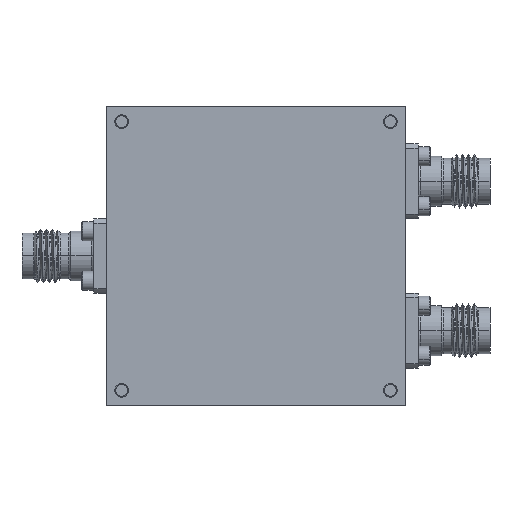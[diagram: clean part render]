
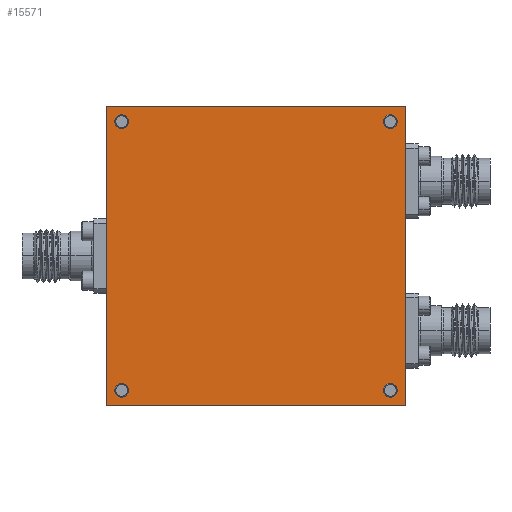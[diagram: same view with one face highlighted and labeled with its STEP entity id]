
A CAD part, front view. The second image highlights one B-rep face of the part: STEP entity #15571.
In plain terms, the highlighted planar face has unit normal (0, -1, 0).
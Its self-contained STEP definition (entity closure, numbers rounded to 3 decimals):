
#79 = EDGE_CURVE ( 'NONE', #7334, #12199, #13654, .T. ) ;
#210 = DIRECTION ( 'NONE',  ( 0., 0., 1. ) ) ;
#556 = ORIENTED_EDGE ( 'NONE', *, *, #16742, .T. ) ;
#653 = AXIS2_PLACEMENT_3D ( 'NONE', #17389, #17871, #15216 ) ;
#761 = CARTESIAN_POINT ( 'NONE',  ( 17.145, 0., -18.034 ) ) ;
#955 = DIRECTION ( 'NONE',  ( 0., 0., 1. ) ) ;
#980 = CARTESIAN_POINT ( 'NONE',  ( 19.05, 0., -19.05 ) ) ;
#1089 = DIRECTION ( 'NONE',  ( 0., 1., 0. ) ) ;
#1413 = CARTESIAN_POINT ( 'NONE',  ( -17.145, 0., -16.256 ) ) ;
#1444 = EDGE_CURVE ( 'NONE', #18007, #2345, #14243, .T. ) ;
#1454 = CARTESIAN_POINT ( 'NONE',  ( 17.145, 0., 16.256 ) ) ;
#1477 = CARTESIAN_POINT ( 'NONE',  ( -19.05, 0., -19.05 ) ) ;
#1688 = ORIENTED_EDGE ( 'NONE', *, *, #3674, .T. ) ;
#1752 = DIRECTION ( 'NONE',  ( 0., 0., 1. ) ) ;
#1812 = VERTEX_POINT ( 'NONE', #6658 ) ;
#1845 = CARTESIAN_POINT ( 'NONE',  ( -17.145, 0., -17.145 ) ) ;
#2024 = CIRCLE ( 'NONE', #4679, 0.889 ) ;
#2078 = FACE_BOUND ( 'NONE', #10899, .T. ) ;
#2144 = ORIENTED_EDGE ( 'NONE', *, *, #15647, .F. ) ;
#2345 = VERTEX_POINT ( 'NONE', #1477 ) ;
#2397 = EDGE_CURVE ( 'NONE', #1812, #5241, #2024, .T. ) ;
#2501 = CARTESIAN_POINT ( 'NONE',  ( 17.145, 0., -16.256 ) ) ;
#3299 = CIRCLE ( 'NONE', #14233, 0.889 ) ;
#3488 = CARTESIAN_POINT ( 'NONE',  ( 19.05, 0., 19.05 ) ) ;
#3674 = EDGE_CURVE ( 'NONE', #13800, #5542, #11053, .T. ) ;
#4264 = CARTESIAN_POINT ( 'NONE',  ( 19.05, 0., -19.05 ) ) ;
#4679 = AXIS2_PLACEMENT_3D ( 'NONE', #9354, #18393, #18478 ) ;
#5083 = EDGE_LOOP ( 'NONE', ( #12473, #8417 ) ) ;
#5224 = VERTEX_POINT ( 'NONE', #3488 ) ;
#5241 = VERTEX_POINT ( 'NONE', #8159 ) ;
#5353 = CARTESIAN_POINT ( 'NONE',  ( -17.145, 0., -17.145 ) ) ;
#5363 = EDGE_LOOP ( 'NONE', ( #556, #7794 ) ) ;
#5542 = VERTEX_POINT ( 'NONE', #2501 ) ;
#5571 = FACE_BOUND ( 'NONE', #5083, .T. ) ;
#5690 = AXIS2_PLACEMENT_3D ( 'NONE', #12480, #17504, #955 ) ;
#5933 = CARTESIAN_POINT ( 'NONE',  ( -19.05, 0., 19.05 ) ) ;
#5944 = DIRECTION ( 'NONE',  ( 0., 1., 0. ) ) ;
#6227 = CARTESIAN_POINT ( 'NONE',  ( 17.145, 0., 18.034 ) ) ;
#6658 = CARTESIAN_POINT ( 'NONE',  ( -17.145, 0., 18.034 ) ) ;
#6756 = DIRECTION ( 'NONE',  ( 0., 0., 1. ) ) ;
#6894 = CARTESIAN_POINT ( 'NONE',  ( -19.05, 0., -19.05 ) ) ;
#6898 = CARTESIAN_POINT ( 'NONE',  ( -17.145, 0., -18.034 ) ) ;
#7045 = EDGE_CURVE ( 'NONE', #5241, #1812, #7439, .T. ) ;
#7102 = DIRECTION ( 'NONE',  ( 0., 0., -1. ) ) ;
#7200 = DIRECTION ( 'NONE',  ( 0., 1., 0. ) ) ;
#7334 = VERTEX_POINT ( 'NONE', #6898 ) ;
#7397 = AXIS2_PLACEMENT_3D ( 'NONE', #5353, #13638, #11878 ) ;
#7439 = CIRCLE ( 'NONE', #12440, 0.889 ) ;
#7483 = DIRECTION ( 'NONE',  ( 1., 0., 0. ) ) ;
#7486 = DIRECTION ( 'NONE',  ( 0., 0., 1. ) ) ;
#7581 = CARTESIAN_POINT ( 'NONE',  ( 0., 0., 0. ) ) ;
#7794 = ORIENTED_EDGE ( 'NONE', *, *, #79, .T. ) ;
#7895 = VECTOR ( 'NONE', #15924, 1000. ) ;
#8010 = EDGE_CURVE ( 'NONE', #5224, #18007, #14646, .T. ) ;
#8159 = CARTESIAN_POINT ( 'NONE',  ( -17.145, 0., 16.256 ) ) ;
#8417 = ORIENTED_EDGE ( 'NONE', *, *, #7045, .T. ) ;
#8989 = CARTESIAN_POINT ( 'NONE',  ( 17.145, 0., -17.145 ) ) ;
#9184 = EDGE_LOOP ( 'NONE', ( #10038, #2144, #15592, #15813 ) ) ;
#9354 = CARTESIAN_POINT ( 'NONE',  ( -17.145, 0., 17.145 ) ) ;
#9912 = EDGE_CURVE ( 'NONE', #18545, #16655, #11320, .T. ) ;
#9967 = LINE ( 'NONE', #14287, #12677 ) ;
#10038 = ORIENTED_EDGE ( 'NONE', *, *, #8010, .F. ) ;
#10535 = DIRECTION ( 'NONE',  ( 0., 0., 1. ) ) ;
#10741 = ORIENTED_EDGE ( 'NONE', *, *, #17376, .T. ) ;
#10899 = EDGE_LOOP ( 'NONE', ( #10741, #1688 ) ) ;
#10935 = CIRCLE ( 'NONE', #653, 0.889 ) ;
#11053 = CIRCLE ( 'NONE', #16089, 0.889 ) ;
#11320 = CIRCLE ( 'NONE', #5690, 0.889 ) ;
#11419 = EDGE_CURVE ( 'NONE', #16655, #18545, #10935, .T. ) ;
#11527 = PLANE ( 'NONE',  #17967 ) ;
#11878 = DIRECTION ( 'NONE',  ( 0., 0., 1. ) ) ;
#12199 = VERTEX_POINT ( 'NONE', #1413 ) ;
#12440 = AXIS2_PLACEMENT_3D ( 'NONE', #16245, #5944, #10535 ) ;
#12473 = ORIENTED_EDGE ( 'NONE', *, *, #2397, .T. ) ;
#12480 = CARTESIAN_POINT ( 'NONE',  ( 17.145, 0., 17.145 ) ) ;
#12677 = VECTOR ( 'NONE', #6756, 1000. ) ;
#13258 = CARTESIAN_POINT ( 'NONE',  ( 17.145, 0., -17.145 ) ) ;
#13638 = DIRECTION ( 'NONE',  ( 0., 1., 0. ) ) ;
#13654 = CIRCLE ( 'NONE', #7397, 0.889 ) ;
#13800 = VERTEX_POINT ( 'NONE', #761 ) ;
#14233 = AXIS2_PLACEMENT_3D ( 'NONE', #8989, #14970, #210 ) ;
#14243 = LINE ( 'NONE', #6894, #7895 ) ;
#14287 = CARTESIAN_POINT ( 'NONE',  ( -19.05, 0., -19.05 ) ) ;
#14560 = ORIENTED_EDGE ( 'NONE', *, *, #9912, .T. ) ;
#14646 = LINE ( 'NONE', #4264, #17664 ) ;
#14970 = DIRECTION ( 'NONE',  ( 0., 1., 0. ) ) ;
#15216 = DIRECTION ( 'NONE',  ( 0., 0., 1. ) ) ;
#15262 = EDGE_LOOP ( 'NONE', ( #19178, #14560 ) ) ;
#15480 = FACE_BOUND ( 'NONE', #5363, .T. ) ;
#15571 = ADVANCED_FACE ( 'NONE', ( #15480, #2078, #17897, #5571, #15966 ), #11527, .F. ) ;
#15592 = ORIENTED_EDGE ( 'NONE', *, *, #17156, .F. ) ;
#15647 = EDGE_CURVE ( 'NONE', #19155, #5224, #18983, .T. ) ;
#15813 = ORIENTED_EDGE ( 'NONE', *, *, #1444, .F. ) ;
#15924 = DIRECTION ( 'NONE',  ( -1., 0., 0. ) ) ;
#15966 = FACE_OUTER_BOUND ( 'NONE', #9184, .T. ) ;
#16089 = AXIS2_PLACEMENT_3D ( 'NONE', #13258, #7200, #17714 ) ;
#16245 = CARTESIAN_POINT ( 'NONE',  ( -17.145, 0., 17.145 ) ) ;
#16655 = VERTEX_POINT ( 'NONE', #6227 ) ;
#16742 = EDGE_CURVE ( 'NONE', #12199, #7334, #19220, .T. ) ;
#17156 = EDGE_CURVE ( 'NONE', #2345, #19155, #9967, .T. ) ;
#17376 = EDGE_CURVE ( 'NONE', #5542, #13800, #3299, .T. ) ;
#17389 = CARTESIAN_POINT ( 'NONE',  ( 17.145, 0., 17.145 ) ) ;
#17504 = DIRECTION ( 'NONE',  ( 0., 1., 0. ) ) ;
#17664 = VECTOR ( 'NONE', #7102, 1000. ) ;
#17714 = DIRECTION ( 'NONE',  ( 0., 0., 1. ) ) ;
#17871 = DIRECTION ( 'NONE',  ( 0., 1., 0. ) ) ;
#17897 = FACE_BOUND ( 'NONE', #15262, .T. ) ;
#17967 = AXIS2_PLACEMENT_3D ( 'NONE', #7581, #1089, #1752 ) ;
#18007 = VERTEX_POINT ( 'NONE', #980 ) ;
#18016 = AXIS2_PLACEMENT_3D ( 'NONE', #1845, #18293, #7486 ) ;
#18293 = DIRECTION ( 'NONE',  ( 0., 1., 0. ) ) ;
#18393 = DIRECTION ( 'NONE',  ( 0., 1., 0. ) ) ;
#18478 = DIRECTION ( 'NONE',  ( 0., 0., 1. ) ) ;
#18545 = VERTEX_POINT ( 'NONE', #1454 ) ;
#18572 = VECTOR ( 'NONE', #7483, 1000. ) ;
#18879 = CARTESIAN_POINT ( 'NONE',  ( -19.05, 0., 19.05 ) ) ;
#18983 = LINE ( 'NONE', #5933, #18572 ) ;
#19155 = VERTEX_POINT ( 'NONE', #18879 ) ;
#19178 = ORIENTED_EDGE ( 'NONE', *, *, #11419, .T. ) ;
#19220 = CIRCLE ( 'NONE', #18016, 0.889 ) ;
